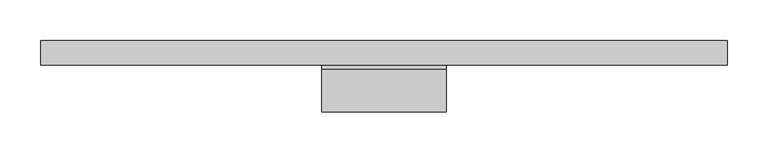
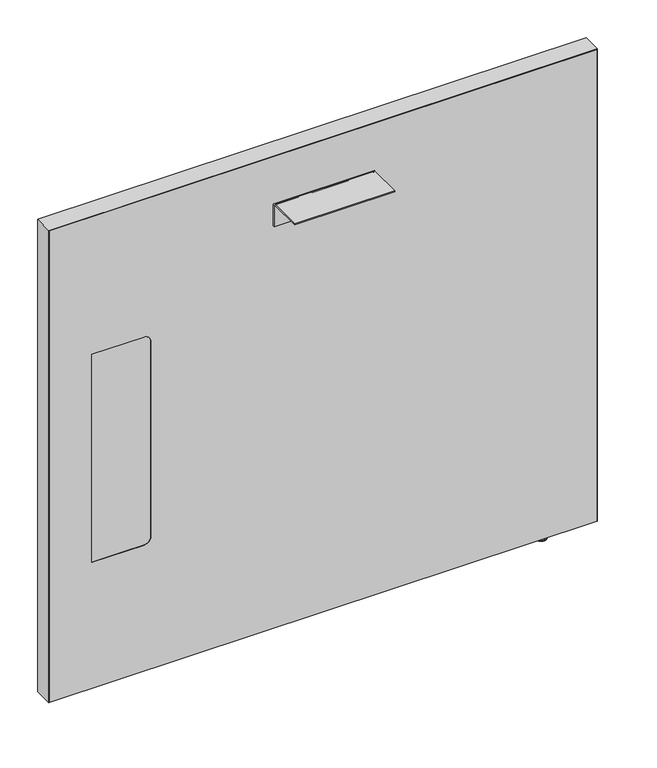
"""IFC4 building model written with IfcOpenShell, lengths in millimetres: furniture geometry, Steelcase - Answer Solution - Boundary Screen - Straight - Single Sided : 30H x 33W."""

import ifcopenshell
import ifcopenshell.guid

model = None  # the IFC model being written
_history = None  # IfcOwnerHistory: only IFC2X3 demands one
_inside = {}  # id of a spatial element -> (the spatial element, [elements in it])
_under = {}  # id of a project, library or spatial element -> (it, [spatial elements below it])
_declared = {}  # id of a project -> (the project, [libraries it declares])
_typed = {}  # id of a type object -> (the type object, [elements of that type])
_made_of = {}  # id of a material, layer set ... -> (it, [elements and type objects made of it])


def new_model(schema):
    """Start an empty IFC model of exactly this schema.

    Asked for "IFC4X3", IfcOpenShell would pick the latest addendum, in which some entities
    have other attributes; the version numbers below select the first issue.
    IFC2X3 requires an IfcOwnerHistory on every rooted entity: one is made here for all.
    """
    global model, _history
    if schema == "IFC4X3":
        model = ifcopenshell.file(schema_version=(4, 3, 0, 0))
    else:
        model = ifcopenshell.file(schema=schema)
    _inside.clear()
    _under.clear()
    _declared.clear()
    _typed.clear()
    _made_of.clear()
    _history = None
    if model.schema == "IFC2X3":
        org = make("IfcOrganization", Name="unknown")
        user = make(
            "IfcPersonAndOrganization",
            ThePerson=make("IfcPerson", FamilyName="unknown"),
            TheOrganization=org,
        )
        app = make(
            "IfcApplication",
            ApplicationDeveloper=org,
            Version="unknown",
            ApplicationFullName="unknown",
            ApplicationIdentifier="unknown",
        )
        _history = make(
            "IfcOwnerHistory",
            OwningUser=user,
            OwningApplication=app,
            ChangeAction="ADDED",
            CreationDate=0,
        )
    return model


def make(cls, **values):
    """One entity of the class cls with the attributes given. An attribute that is None is left unset."""
    return model.create_entity(
        cls, **{name: value for name, value in values.items() if value is not None}
    )


def rooted(cls, **values):
    """An entity with a GlobalId (a new one), such as an element, a storey or a relation."""
    return make(cls, GlobalId=ifcopenshell.guid.new(), OwnerHistory=_history, **values)


def si_unit(unit_type, name, prefix=None):
    """IfcSIUnit, for example si_unit("LENGTHUNIT", "METRE", prefix="MILLI")."""
    return make("IfcSIUnit", UnitType=unit_type, Prefix=prefix, Name=name)


def assignment(units):
    """IfcUnitAssignment: the units of a project."""
    return None if units is None else make("IfcUnitAssignment", Units=units)


def point(xyz):
    """IfcCartesianPoint."""
    return None if xyz is None else make("IfcCartesianPoint", Coordinates=xyz)


def direction(xyz):
    """IfcDirection."""
    return None if xyz is None else make("IfcDirection", DirectionRatios=xyz)


def frame(location, z_axis=None, x_axis=None):
    """IfcAxis2Placement3D, a coordinate frame: its origin and axes. An axis left out is left unset."""
    return make(
        "IfcAxis2Placement3D",
        Location=point(location),
        Axis=direction(z_axis),
        RefDirection=direction(x_axis),
    )


def frame_2d(location, x_axis=None):
    """IfcAxis2Placement2D, a coordinate frame in the plane: its origin and x axis."""
    return make(
        "IfcAxis2Placement2D", Location=point(location), RefDirection=direction(x_axis)
    )


def origin():
    """The frame at (0, 0, 0) with its axes left unset."""
    return frame((0.0, 0.0, 0.0))


def place(relative_to, where):
    """IfcLocalPlacement: puts the frame where relative to a parent placement (None: the world)."""
    return make(
        "IfcLocalPlacement", PlacementRelTo=relative_to, RelativePlacement=where
    )


def context(
    kind, dimensions, precision=None, world=None, true_north=None, identifier=None
):
    """IfcGeometricRepresentationContext, for example the 3D "Model" context."""
    return make(
        "IfcGeometricRepresentationContext",
        ContextIdentifier=identifier,
        ContextType=kind,
        CoordinateSpaceDimension=dimensions,
        Precision=precision,
        WorldCoordinateSystem=world,
        TrueNorth=true_north,
    )


def project(units=None, contexts=None):
    """IfcProject with its units and contexts."""
    return rooted(
        "IfcProject",
        Name="project",
        RepresentationContexts=contexts,
        UnitsInContext=assignment(units),
    )


def spatial(cls, under=None, at=None, **own):
    """A site, building, storey or space (cls), placed at a placement, below another one or the project."""
    s = rooted(cls, ObjectPlacement=at, **own)
    if under is not None:
        _under.setdefault(under.id(), (under, []))[1].append(s)
    return s


def polyline(points):
    """IfcPolyline through the points."""
    return make("IfcPolyline", Points=[point(p) for p in points])


def circle_curve(where, radius):
    """IfcCircle in the frame where."""
    return make("IfcCircle", Position=where, Radius=radius)


def ellipse_curve(where, semi_axis1, semi_axis2):
    """IfcEllipse in the frame where."""
    return make(
        "IfcEllipse", Position=where, SemiAxis1=semi_axis1, SemiAxis2=semi_axis2
    )


def trimmed(basis, trim1, trim2, sense, master):
    """IfcTrimmedCurve: the piece of a basis curve between two trims."""
    return make(
        "IfcTrimmedCurve",
        BasisCurve=basis,
        Trim1=trim1,
        Trim2=trim2,
        SenseAgreement=sense,
        MasterRepresentation=master,
    )


def segment(curve, same_sense, transition):
    """IfcCompositeCurveSegment."""
    return make(
        "IfcCompositeCurveSegment",
        Transition=transition,
        SameSense=same_sense,
        ParentCurve=curve,
    )


def composite_curve(segments, self_intersect=None):
    """IfcCompositeCurve: segments joined end to end."""
    return make("IfcCompositeCurve", Segments=segments, SelfIntersect=self_intersect)


def outline(outer, holes=None, kind="AREA"):
    """IfcArbitraryClosedProfileDef: a profile drawn as a closed curve; with holes, ...WithVoids."""
    if holes is None:
        return make("IfcArbitraryClosedProfileDef", ProfileType=kind, OuterCurve=outer)
    return make(
        "IfcArbitraryProfileDefWithVoids",
        ProfileType=kind,
        OuterCurve=outer,
        InnerCurves=holes,
    )


def extrude(swept, where, along, depth):
    """IfcExtrudedAreaSolid: the profile swept, set in the frame where, extruded along a direction by depth."""
    return make(
        "IfcExtrudedAreaSolid",
        SweptArea=swept,
        Position=where,
        ExtrudedDirection=direction(along),
        Depth=depth,
    )


def shape(context_of_items, identifier, shape_type, items):
    """IfcShapeRepresentation: the items that make up one representation, for example the "Body"."""
    return make(
        "IfcShapeRepresentation",
        ContextOfItems=context_of_items,
        RepresentationIdentifier=identifier,
        RepresentationType=shape_type,
        Items=items,
    )


def source(mapping_origin, context_of_items, identifier, shape_type, items):
    """IfcRepresentationMap: a shape defined once, which mapped items show again and again."""
    return make(
        "IfcRepresentationMap",
        MappingOrigin=mapping_origin,
        MappedRepresentation=shape(context_of_items, identifier, shape_type, items),
    )


def transform(
    local_origin,
    x_axis=None,
    y_axis=None,
    z_axis=None,
    scale=None,
    scale2=None,
    scale3=None,
    uniform=True,
):
    """IfcCartesianTransformationOperator3D, or its non-uniform kind. x_axis, y_axis, z_axis: its Axis1, 2, 3."""
    if uniform:
        return make(
            "IfcCartesianTransformationOperator3D",
            Axis1=direction(x_axis),
            Axis2=direction(y_axis),
            LocalOrigin=point(local_origin),
            Scale=scale,
            Axis3=direction(z_axis),
        )
    return make(
        "IfcCartesianTransformationOperator3DnonUniform",
        Axis1=direction(x_axis),
        Axis2=direction(y_axis),
        LocalOrigin=point(local_origin),
        Scale=scale,
        Axis3=direction(z_axis),
        Scale2=scale2,
        Scale3=scale3,
    )


def mapped(mapping_source, mapping_target):
    """IfcMappedItem: shows the shape of a source again, moved by a transform."""
    return make(
        "IfcMappedItem", MappingSource=mapping_source, MappingTarget=mapping_target
    )


def made_of(thing, what):
    """Note that an element or type object is made of a material, layer set ...; save() writes the relation."""
    if what is not None:
        _made_of.setdefault(what.id(), (what, []))[1].append(thing)
    return thing


def element(
    cls,
    number,
    at=None,
    inside=None,
    cuts=None,
    type_object=None,
    material=None,
    context=None,
    identifier="Body",
    shape_type=None,
    held_by="IfcProductDefinitionShape",
    body=None,
    shapes=None,
    **own,
):
    """One element of the class cls, such as IfcWall. Its Tag is "e" and its number.

    at: its placement. inside: the storey or other place that contains it. cuts: it is an
    opening in that element (IfcRelVoidsElement). A single representation is given by context,
    identifier, shape_type and body (its items); several are given by shapes. held_by: the class
    of the entity that holds the representations. save() writes the other relations.
    """
    e = rooted(cls, Tag="e%d" % number, ObjectPlacement=at, **own)
    if body is not None:
        shapes = [shape(context, identifier, shape_type, body)]
    if shapes is not None:
        e.Representation = make(held_by, Representations=shapes)
    if inside is not None:
        _inside.setdefault(inside.id(), (inside, []))[1].append(e)
    if cuts is not None:
        rooted(
            "IfcRelVoidsElement", RelatingBuildingElement=cuts, RelatedOpeningElement=e
        )
    if type_object is not None:
        _typed.setdefault(type_object.id(), (type_object, []))[1].append(e)
    return made_of(e, material)


def aggregate(whole, parts):
    """IfcRelAggregates: a whole, such as a stair, and the parts it consists of."""
    return rooted("IfcRelAggregates", RelatingObject=whole, RelatedObjects=parts)


def save(model, path):
    """Write the relations noted so far, then the file.

    IfcRelAggregates (storeys below a building ...), IfcRelContainedInSpatialStructure (elements
    in a storey), IfcRelDefinesByType, IfcRelAssociatesMaterial and IfcRelDeclares: one each for
    every whole, place, type object, material and project.
    """
    for whole, parts in _under.values():
        aggregate(whole, parts)
    for where, things in _inside.values():
        rooted(
            "IfcRelContainedInSpatialStructure",
            RelatedElements=things,
            RelatingStructure=where,
        )
    for kind, things in _typed.values():
        rooted("IfcRelDefinesByType", RelatedObjects=things, RelatingType=kind)
    for what, things in _made_of.values():
        rooted("IfcRelAssociatesMaterial", RelatedObjects=things, RelatingMaterial=what)
    for by, libraries in _declared.values():
        rooted("IfcRelDeclares", RelatingContext=by, RelatedDefinitions=libraries)
    model.write(path)


def plane_surface(at):
    """IfcPlane: the flat surface through the origin of the frame at, square to its z axis."""
    return make("IfcPlane", Position=at)


def cylinder_surface(at, radius):
    """IfcCylindricalSurface: all points at the distance radius from the z axis of the frame at."""
    return make("IfcCylindricalSurface", Position=at, Radius=radius)


def revolved_surface(curve, axis_point, axis_direction):
    """IfcSurfaceOfRevolution: the curve turned about the line through axis_point along axis_direction."""
    return make(
        "IfcSurfaceOfRevolution",
        SweptCurve=make("IfcArbitraryOpenProfileDef", ProfileType="CURVE", Curve=curve),
        AxisPosition=make("IfcAxis1Placement", Location=point(axis_point), Axis=direction(axis_direction)),
    )


def advanced_brep(points, edges, surfaces, faces):
    """IfcAdvancedBrep: a solid bounded by faces that lie on surfaces and meet in shared edges.

    An edge is (start, end): straight between two places in points (the first is 0);
    or (start, end, curve); or (start, end, curve, False) where it runs against its curve.
    A face is (place in surfaces, loops), or (place, loops, False) where it looks against
    its surface's normal. A loop lists edges by number (the first is 1), with a minus sign
    where the edge is run from its end to its start. The first loop is the outer one.
    """
    corners = [point(p) for p in points]
    vertices = [make("IfcVertexPoint", VertexGeometry=c) for c in corners]
    made = []
    for start, end, *more in edges:
        made.append(
            make(
                "IfcEdgeCurve",
                EdgeStart=vertices[start],
                EdgeEnd=vertices[end],
                EdgeGeometry=more[0] if more else make("IfcPolyline", Points=[corners[start], corners[end]]),
                SameSense=more[1] if len(more) > 1 else True,
            )
        )
    hull = []
    for where, loops, *sense in faces:
        bounds = []
        for j, loop in enumerate(loops):
            ring = [make("IfcOrientedEdge", EdgeElement=made[abs(k) - 1], Orientation=k > 0) for k in loop]
            bounds.append(
                make(
                    "IfcFaceOuterBound" if j == 0 else "IfcFaceBound",
                    Bound=make("IfcEdgeLoop", EdgeList=ring),
                    Orientation=True,
                )
            )
        hull.append(make("IfcAdvancedFace", Bounds=bounds, FaceSurface=surfaces[where], SameSense=sense[0] if sense else True))
    return make("IfcAdvancedBrep", Outer=make("IfcClosedShell", CfsFaces=hull))


def furniture_625dbbb4(model_context):
    return source(origin(), model_context, "Body", "SolidModel", [
        extrude(outline(composite_curve([segment(polyline([(-86.8398151, 696.4680019), (-86.8398151, 698.5), (-34.9450855, 698.5)]), True, "CONTINUOUS"), segment(trimmed(circle_curve(frame_2d((-34.9450855, 693.2447477)), 5.2552523), [point((-34.9450855, 698.5))], [point((-29.6898332, 693.2447477))], False, "CARTESIAN"), True, "CONTINUOUS"), segment(polyline([(-29.6898332, 693.2447477), (-29.6898332, 660.4), (-31.7218162, 660.4), (-31.7218162, 693.0058743)]), True, "CONTINUOUS"), segment(trimmed(circle_curve(frame_2d((-35.1839438, 693.0058743)), 3.4621276), [point((-31.7218162, 693.0058743))], [point((-35.1839438, 696.4680019))], True, "CARTESIAN"), True, "CONTINUOUS"), segment(polyline([(-35.1839438, 696.4680019), (-86.8398151, 696.4680019)]), True, "CONTINUOUS")], self_intersect=False)), frame((-303.5808593, 0.0, 0.0), z_axis=(1.0, 0.0, 0.0), x_axis=(0.0, 1.0, 0.0)), (0.0, 0.0, 1.0), 152.4000969),
        advanced_brep(
        [(114.5286488, -23.7588726, 9.9059849), (114.5286488, -5.9309607, 9.9059849), (114.5286488, -14.8449166, 9.9059849), (114.5286488, -23.7588726, 2.9673238), (114.5286488, -5.9309607, 2.9673238), (114.5286488, -22.7915354, 2.9673238), (114.5286488, -6.8982978, 2.9673238), (114.5286488, -22.7915354, 1.6569081), (114.5286488, -6.8982978, 1.6569081), (114.5286488, -21.1346274, 0.0), (114.5286488, -8.5552059, 0.0), (114.5286488, -14.8449166, 0.0)],
        [
            (0, 1, circle_curve(frame((114.5286488, -14.8449166, 9.9059849), z_axis=(0.0, 0.0, 1.0), x_axis=(0.0, 1.0, 0.0)), 8.913956)),
            (1, 2),
            (2, 0),
            (1, 0, circle_curve(frame((114.5286488, -14.8449166, 9.9059849), z_axis=(0.0, 0.0, 1.0), x_axis=(0.0, 1.0, 0.0)), 8.913956)),
            (3, 4, circle_curve(frame((114.5286488, -14.8449166, 2.9673238), z_axis=(0.0, 0.0, 1.0), x_axis=(0.0, 1.0, 0.0)), 8.913956)),
            (4, 1),
            (0, 3),
            (4, 3, circle_curve(frame((114.5286488, -14.8449166, 2.9673238), z_axis=(0.0, 0.0, 1.0), x_axis=(0.0, 1.0, 0.0)), 8.913956)),
            (5, 6, circle_curve(frame((114.5286488, -14.8449166, 2.9673238), z_axis=(0.0, 0.0, 1.0), x_axis=(0.0, 1.0, 0.0)), 7.9466188)),
            (6, 4),
            (3, 5),
            (6, 5, circle_curve(frame((114.5286488, -14.8449166, 2.9673238), z_axis=(0.0, 0.0, 1.0), x_axis=(0.0, 1.0, 0.0)), 7.9466188)),
            (7, 8, circle_curve(frame((114.5286488, -14.8449166, 1.6569081), z_axis=(0.0, 0.0, 1.0), x_axis=(0.0, 1.0, 0.0)), 7.9466188)),
            (8, 6),
            (5, 7),
            (8, 7, circle_curve(frame((114.5286488, -14.8449166, 1.6569081), z_axis=(0.0, 0.0, 1.0), x_axis=(0.0, 1.0, 0.0)), 7.9466188)),
            (9, 10, circle_curve(frame((114.5286488, -14.8449166, 0.0), z_axis=(0.0, 0.0, 1.0), x_axis=(0.0, 1.0, 0.0)), 6.2897107)),
            (10, 8, circle_curve(frame((114.5286488, -8.5552059, 1.6569081), z_axis=(1.0, 0.0, 0.0), x_axis=(0.0, 1.0, 0.0)), 1.6569081)),
            (7, 9, circle_curve(frame((114.5286488, -21.1346274, 1.6569081), z_axis=(1.0, 0.0, 0.0), x_axis=(0.0, -1.0, 0.0)), 1.6569081)),
            (10, 9, circle_curve(frame((114.5286488, -14.8449166, 0.0), z_axis=(0.0, 0.0, 1.0), x_axis=(0.0, 1.0, 0.0)), 6.2897107)),
            (11, 10),
            (9, 11),
        ],
        [
            plane_surface(frame((114.5286488, -14.8449166, 9.9059849), z_axis=(0.0, 0.0, 1.0), x_axis=(0.0, 1.0, 0.0))),
            cylinder_surface(frame((114.5286488, -14.8449166, 9.9059849), z_axis=(0.0, 0.0, -1.0), x_axis=(0.0, 1.0, 0.0)), 8.913956),
            plane_surface(frame((114.5286488, -14.8449166, 2.9673238), z_axis=(0.0, 0.0, -1.0), x_axis=(0.0, 1.0, 0.0))),
            cylinder_surface(frame((114.5286488, -14.8449166, 9.9059849), z_axis=(0.0, 0.0, -1.0), x_axis=(0.0, 1.0, 0.0)), 7.9466188),
            revolved_surface(trimmed(ellipse_curve(frame((114.5286488, -8.5552059, 1.6569081), z_axis=(-1.0, 0.0, 0.0), x_axis=(0.0, 1.0, 0.0)), 1.6569081, 1.6569081), [point((114.5286488, -6.8982978, 1.6569081))], [point((114.5286488, -8.5552059, 0.0))], True, "CARTESIAN"), (114.5286488, -14.8449166, 9.9059849), (0.0, 0.0, -1.0)),
            plane_surface(frame((114.5286488, -14.8449166, 0.0), z_axis=(0.0, 0.0, -1.0), x_axis=(0.0, 1.0, 0.0))),
        ],
        [
            (0, [[1, 2, 3]]),
            (0, [[4, -3, -2]]),
            (1, [[5, 6, -1, 7]]),
            (1, [[8, -7, -4, -6]]),
            (2, [[9, 10, -5, 11]]),
            (2, [[12, -11, -8, -10]]),
            (3, [[13, 14, -9, 15]]),
            (3, [[16, -15, -12, -14]]),
            (4, [[17, 18, -13, 19]]),
            (4, [[20, -19, -16, -18]]),
            (5, [[21, -17, 22]]),
            (5, [[-22, -20, -21]]),
        ],
    ),
        advanced_brep(
        [(190.6780168, 0.0, 771.942118), (190.6780168, 0.0, 9.9059849), (-645.4902221, 0.0, 9.9059849), (-645.4902221, 0.0, 771.942118), (190.6780168, -29.6898332, 771.942118), (-645.4902221, -29.6898332, 771.942118), (-645.4902221, -29.6898332, 9.9059849), (190.6780168, -29.6898332, 9.9059849), (-501.1463873, -29.6898332, 549.6162029), (-490.9863873, -29.6898332, 539.4562029), (-490.9863873, -29.6898332, 223.9362137), (-501.1463873, -29.6898332, 213.7762137), (-580.800285, -29.6898332, 213.7762137), (-580.800285, -29.6898332, 549.6162029), (-580.800285, -29.0550397, 549.6162029), (-501.1463873, -29.0550397, 549.6162029), (-580.800285, -29.0550397, 213.7762137), (-501.1463873, -29.0550397, 213.7762137), (-490.9863873, -29.0550397, 223.9362137), (-490.9863873, -29.0550397, 539.4562029)],
        [
            (0, 1),
            (1, 2),
            (2, 3),
            (3, 0),
            (4, 5),
            (5, 6),
            (6, 7),
            (7, 4),
            (8, 9, circle_curve(frame((-501.1463873, -29.6898332, 539.4562029), z_axis=(0.0, 1.0, 0.0), x_axis=(0.0, 0.0, 1.0)), 10.16)),
            (9, 10),
            (10, 11, circle_curve(frame((-501.1463873, -29.6898332, 223.9362137), z_axis=(0.0, 1.0, 0.0), x_axis=(0.0, 0.0, 1.0)), 10.16)),
            (11, 12),
            (12, 13),
            (13, 8),
            (0, 4),
            (7, 1),
            (6, 2),
            (5, 3),
            (13, 14),
            (14, 15),
            (15, 8),
            (12, 16),
            (16, 14),
            (11, 17),
            (17, 16),
            (10, 18),
            (18, 17, circle_curve(frame((-501.1463873, -29.0550397, 223.9362137), z_axis=(0.0, 1.0, 0.0), x_axis=(0.0, 0.0, 1.0)), 10.16)),
            (9, 19),
            (19, 18),
            (15, 19, circle_curve(frame((-501.1463873, -29.0550397, 539.4562029), z_axis=(0.0, 1.0, 0.0), x_axis=(0.0, 0.0, 1.0)), 10.16)),
        ],
        [
            plane_surface(frame((190.6780168, 0.0, 771.942118), z_axis=(0.0, 1.0, 0.0), x_axis=(0.0, 0.0, -1.0))),
            plane_surface(frame((190.6780168, -29.6898332, 771.942118), z_axis=(0.0, -1.0, 0.0), x_axis=(0.0, 0.0, 1.0))),
            plane_surface(frame((190.6780168, 0.0, 771.942118), z_axis=(1.0, 0.0, 0.0), x_axis=(0.0, -1.0, 0.0))),
            plane_surface(frame((190.6780168, 0.0, 9.9059849), z_axis=(0.0, 0.0, -1.0), x_axis=(0.0, -1.0, 0.0))),
            plane_surface(frame((-645.4902221, 0.0, 9.9059849), z_axis=(-1.0, 0.0, 0.0), x_axis=(0.0, -1.0, 0.0))),
            plane_surface(frame((-645.4902221, 0.0, 771.942118), z_axis=(0.0, 0.0, 1.0), x_axis=(0.0, -1.0, 0.0))),
            plane_surface(frame((-501.1463873, 0.0, 549.6162029), z_axis=(0.0, 0.0, -1.0), x_axis=(0.0, -1.0, 0.0))),
            plane_surface(frame((-580.800285, 0.0, 549.6162029), z_axis=(1.0, 0.0, 0.0), x_axis=(0.0, -1.0, 0.0))),
            plane_surface(frame((-580.800285, 0.0, 213.7762137), z_axis=(0.0, 0.0, 1.0), x_axis=(0.0, -1.0, 0.0))),
            revolved_surface(polyline([(-501.1463873, -29.6898332, 234.0962137), (-501.1463873, -29.0550397, 234.0962137)]), (-501.1463873, -29.6898332, 223.9362137), (0.0, -1.0, 0.0)),
            plane_surface(frame((-490.9863873, 0.0, 223.9362137), z_axis=(-1.0, 0.0, 0.0), x_axis=(0.0, -1.0, 0.0))),
            revolved_surface(polyline([(-501.1463873, -29.6898332, 549.6162029), (-501.1463873, -29.0550397, 549.6162029)]), (-501.1463873, -29.6898332, 539.4562029), (0.0, -1.0, 0.0)),
            plane_surface(frame((-490.9863873, -29.0550397, 629.172953), z_axis=(0.0, -1.0, 0.0), x_axis=(0.0, 0.0, 1.0))),
        ],
        [
            (0, [[1, 2, 3, 4]]),
            (1, [[5, 6, 7, 8], [9, 10, 11, 12, 13, 14]]),
            (2, [[-1, 15, -8, 16]]),
            (3, [[-2, -16, -7, 17]]),
            (4, [[-3, -17, -6, 18]]),
            (5, [[-4, -18, -5, -15]]),
            (6, [[-14, 19, 20, 21]]),
            (7, [[-13, 22, 23, -19]]),
            (8, [[-12, 24, 25, -22]]),
            (9, [[-11, 26, 27, -24]]),
            (10, [[-10, 28, 29, -26]]),
            (11, [[-9, -21, 30, -28]]),
            (12, [[-20, -23, -25, -27, -29, -30]]),
        ],
    ),
        extrude(outline(composite_curve([segment(polyline([(549.6162029, -501.1463873), (549.6162029, -580.800285), (213.7762137, -580.800285), (213.7762137, -501.1463873)]), True, "CONTINUOUS"), segment(trimmed(circle_curve(frame_2d((223.9362137, -501.1463873)), 10.16), [point((213.7762137, -501.1463873))], [point((223.9362137, -490.9863873))], False, "CARTESIAN"), True, "CONTINUOUS"), segment(polyline([(223.9362137, -490.9863873), (539.4562029, -490.9863873)]), True, "CONTINUOUS"), segment(trimmed(circle_curve(frame_2d((539.4562029, -501.1463873)), 10.16), [point((539.4562029, -490.9863873))], [point((549.6162029, -501.1463873))], False, "CARTESIAN"), True, "CONTINUOUS")], self_intersect=False)), frame((0.0, -29.6898332, 0.0), z_axis=(0.0, 1.0, 0.0), x_axis=(0.0, 0.0, 1.0)), (0.0, 0.0, 1.0), 0.6347935),
        extrude(outline(polyline([(772.922, 191.7191891), (772.922, -646.4808109), (9.9059849, -646.4808109), (9.9059849, -645.4902221), (771.942118, -645.4902221), (771.942118, 190.6780168), (9.9059849, 190.6780168), (9.9059849, 191.7191891), (772.922, 191.7191891)])), frame((0.0, -29.6898332, 0.0), z_axis=(0.0, 1.0, 0.0), x_axis=(0.0, 0.0, 1.0)), (0.0, 0.0, 1.0), 29.6898332),
    ])


if __name__ == "__main__":
    model = new_model("IFC4")
    model_context = context("Model", 3, world=origin())
    ifc_project = project(units=[si_unit("LENGTHUNIT", "METRE", prefix="MILLI")], contexts=[model_context])
    site = spatial("IfcSite", under=ifc_project)
    building = spatial("IfcBuilding", under=site)
    placement = place(None, origin())
    furniture_shape = furniture_625dbbb4(model_context)
    element("IfcFurniture", 1, ObjectType="Steelcase - Answer Solution - Boundary Screen - Straight - Single Sided : 30H x 33W", at=placement, inside=building, context=model_context, shape_type="MappedRepresentation", body=[
        mapped(furniture_shape, transform((0.0, 0.0, 0.0), x_axis=(1.0, 0.0, 0.0), y_axis=(0.0, 1.0, 0.0), z_axis=(0.0, 0.0, 1.0))),
    ])
    save(model, "model.ifc")
